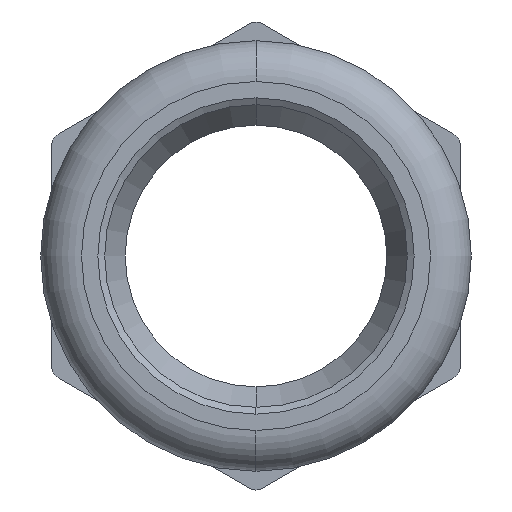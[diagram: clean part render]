
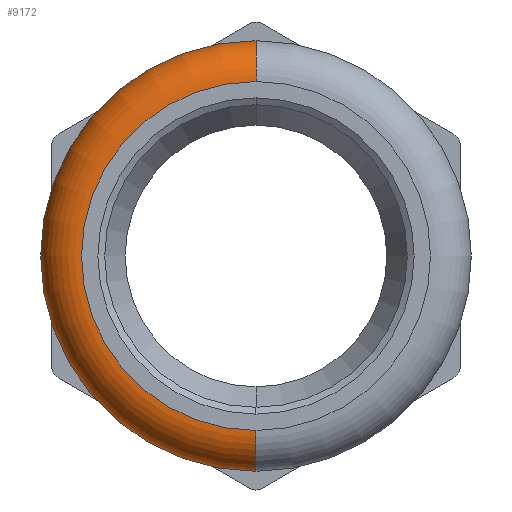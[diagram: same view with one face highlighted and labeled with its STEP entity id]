
A CAD part, left-side view. The second image highlights one B-rep face of the part: STEP entity #9172.
In plain terms, the highlighted toroidal (fillet/blend) face has major radius 12.8 mm and minor radius 3 mm.
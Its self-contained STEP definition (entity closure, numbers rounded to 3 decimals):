
#125 = AXIS2_PLACEMENT_3D ( 'NONE', #7301, #4781, #195 ) ;
#195 = DIRECTION ( 'NONE',  ( 0., 0., -1. ) ) ;
#512 = DIRECTION ( 'NONE',  ( -1., 0., 0. ) ) ;
#529 = EDGE_CURVE ( 'NONE', #5915, #3118, #1369, .T. ) ;
#1099 = AXIS2_PLACEMENT_3D ( 'NONE', #2099, #5213, #7498 ) ;
#1285 = TOROIDAL_SURFACE ( 'NONE', #5209, 12.8, 3. ) ;
#1369 = CIRCLE ( 'NONE', #7086, 12.8 ) ;
#1879 = DIRECTION ( 'NONE',  ( -1., 0., 0. ) ) ;
#2099 = CARTESIAN_POINT ( 'NONE',  ( -29., 0., -12.8 ) ) ;
#2263 = EDGE_LOOP ( 'NONE', ( #6732, #5002, #3793, #4465 ) ) ;
#2699 = CIRCLE ( 'NONE', #125, 3. ) ;
#3118 = VERTEX_POINT ( 'NONE', #7423 ) ;
#3515 = CARTESIAN_POINT ( 'NONE',  ( -26.533, 0., -14.507 ) ) ;
#3638 = DIRECTION ( 'NONE',  ( 0., 0., 1. ) ) ;
#3793 = ORIENTED_EDGE ( 'NONE', *, *, #529, .F. ) ;
#3886 = VERTEX_POINT ( 'NONE', #6804 ) ;
#3966 = EDGE_CURVE ( 'NONE', #3886, #5915, #2699, .T. ) ;
#4465 = ORIENTED_EDGE ( 'NONE', *, *, #3966, .F. ) ;
#4468 = CARTESIAN_POINT ( 'NONE',  ( -29., 0., 0. ) ) ;
#4781 = DIRECTION ( 'NONE',  ( 0., -1., 0. ) ) ;
#4995 = DIRECTION ( 'NONE',  ( 0., 0., 1. ) ) ;
#5002 = ORIENTED_EDGE ( 'NONE', *, *, #7155, .T. ) ;
#5007 = CIRCLE ( 'NONE', #1099, 3. ) ;
#5209 = AXIS2_PLACEMENT_3D ( 'NONE', #4468, #8977, #3638 ) ;
#5213 = DIRECTION ( 'NONE',  ( 0., 1., 0. ) ) ;
#5664 = FACE_OUTER_BOUND ( 'NONE', #2263, .T. ) ;
#5915 = VERTEX_POINT ( 'NONE', #9839 ) ;
#6256 = CARTESIAN_POINT ( 'NONE',  ( -32., 0., 0. ) ) ;
#6732 = ORIENTED_EDGE ( 'NONE', *, *, #9413, .T. ) ;
#6804 = CARTESIAN_POINT ( 'NONE',  ( -26.533, 0., 14.507 ) ) ;
#7086 = AXIS2_PLACEMENT_3D ( 'NONE', #6256, #1879, #4995 ) ;
#7155 = EDGE_CURVE ( 'NONE', #8343, #3118, #5007, .T. ) ;
#7301 = CARTESIAN_POINT ( 'NONE',  ( -29., 0., 12.8 ) ) ;
#7423 = CARTESIAN_POINT ( 'NONE',  ( -32., 0., -12.8 ) ) ;
#7479 = CIRCLE ( 'NONE', #8771, 14.507 ) ;
#7498 = DIRECTION ( 'NONE',  ( 0., 0., 1. ) ) ;
#7533 = CARTESIAN_POINT ( 'NONE',  ( -26.533, 0., 0. ) ) ;
#8343 = VERTEX_POINT ( 'NONE', #3515 ) ;
#8771 = AXIS2_PLACEMENT_3D ( 'NONE', #7533, #512, #9200 ) ;
#8977 = DIRECTION ( 'NONE',  ( -1., 0., 0. ) ) ;
#9172 = ADVANCED_FACE ( 'NONE', ( #5664 ), #1285, .T. ) ;
#9200 = DIRECTION ( 'NONE',  ( 0., 0., 1. ) ) ;
#9413 = EDGE_CURVE ( 'NONE', #3886, #8343, #7479, .T. ) ;
#9839 = CARTESIAN_POINT ( 'NONE',  ( -32., 0., 12.8 ) ) ;
